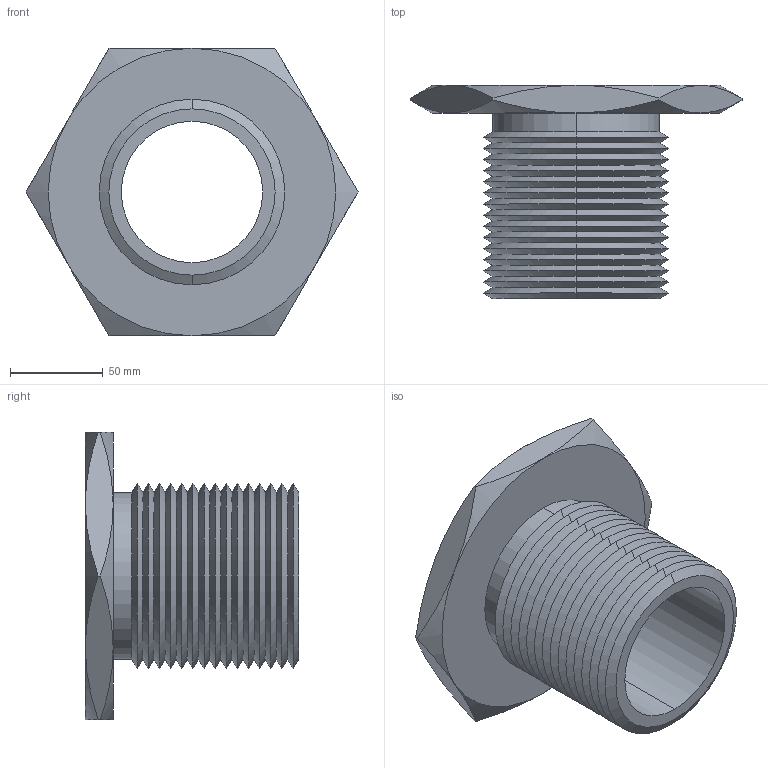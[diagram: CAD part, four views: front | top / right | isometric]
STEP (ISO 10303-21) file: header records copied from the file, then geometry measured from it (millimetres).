
FILE_DESCRIPTION (( 'STEP AP203' ), '1' );
FILE_NAME ('63302.W0100_3,00 UNC-4.step', '2013-12-08T11:34:49', ( 'User' ), ( '' ), 'SwSTEP 2.0', 'SolidWorks 2009', '' );
FILE_SCHEMA (( 'CONFIG_CONTROL_DESIGN' ));
Length unit declared in the file: millimetre
Products named in the file (1): 63302.W0100_3,00 UNC-4
Bounding box: 178.98 x 115 x 155 mm (x, y, z)
Volume: 473481.4 mm3; surface area: 121712.7 mm2
Topology: 1 solids, 1 shells, 87 faces, 178 edges, 94 vertices
Faces by surface type: cone 74, plane 9, cylinder 4
Entity records: 2479 total; most frequent: CARTESIAN_POINT 584, DIRECTION 412, ORIENTED_EDGE 356, EDGE_CURVE 178, AXIS2_PLACEMENT_3D 170, VERTEX_POINT 94, EDGE_LOOP 90, ADVANCED_FACE 87
